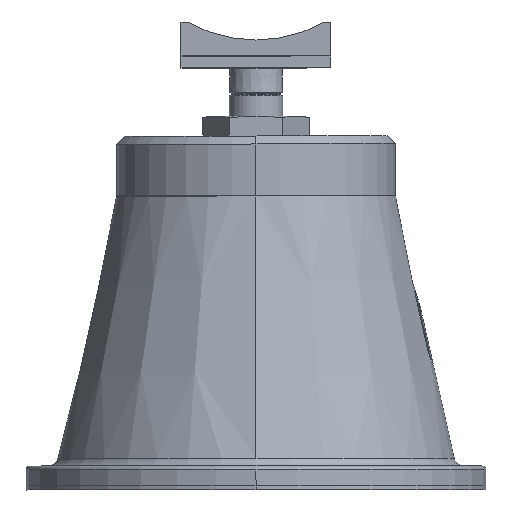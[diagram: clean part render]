
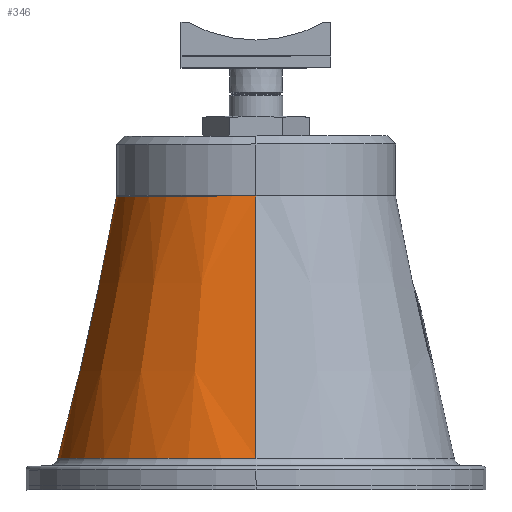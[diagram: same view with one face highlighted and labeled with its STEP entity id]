
A CAD part, left-side view. The second image highlights one B-rep face of the part: STEP entity #346.
In plain terms, the highlighted conical face has half-angle 12.633 degrees and reference radius 84.432 mm.
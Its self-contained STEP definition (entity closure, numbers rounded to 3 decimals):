
#346=ADVANCED_FACE('',(#701),#702,.T.);
#701=FACE_OUTER_BOUND('',#1097,.T.);
#702=CONICAL_SURFACE('',#1098,84.432,0.22);
#1097=EDGE_LOOP('',(#1887,#1888,#1889,#1890,#1891));
#1098=AXIS2_PLACEMENT_3D('',#1892,#1893,#1894);
#1887=ORIENTED_EDGE('',*,*,#2547,.T.);
#1888=ORIENTED_EDGE('',*,*,#2572,.F.);
#1889=ORIENTED_EDGE('',*,*,#2549,.T.);
#1890=ORIENTED_EDGE('',*,*,#2573,.T.);
#1891=ORIENTED_EDGE('',*,*,#2473,.T.);
#1892=CARTESIAN_POINT('',(459.518,546.894,-65.968));
#1893=DIRECTION('',(0.,0.,-1.0));
#1894=DIRECTION('',(-1.0,0.,0.));
#2473=EDGE_CURVE('',#2955,#2963,#2965,.T.);
#2547=EDGE_CURVE('',#2963,#3096,#3097,.T.);
#2549=EDGE_CURVE('',#3100,#3098,#3101,.T.);
#2572=EDGE_CURVE('',#3100,#3096,#3139,.T.);
#2573=EDGE_CURVE('',#3098,#2955,#3140,.T.);
#2955=VERTEX_POINT('',#3714);
#2963=VERTEX_POINT('',#3722);
#2965=CIRCLE('',#3724,99.123);
#3096=VERTEX_POINT('',#4315);
#3097=LINE('',#4316,#4317);
#3098=VERTEX_POINT('',#4318);
#3100=VERTEX_POINT('',#4320);
#3101=LINE('',#4321,#4322);
#3139=CIRCLE('',#4369,69.742);
#3140=CIRCLE('',#4370,99.123);
#3714=CARTESIAN_POINT('',(459.518,646.017,-131.51));
#3722=CARTESIAN_POINT('',(360.396,546.894,-131.51));
#3724=AXIS2_PLACEMENT_3D('',#4805,#4806,#4807);
#4315=CARTESIAN_POINT('',(389.777,546.894,-0.425));
#4316=CARTESIAN_POINT('',(375.086,546.894,-65.968));
#4317=VECTOR('',#4876,1.0);
#4318=CARTESIAN_POINT('',(558.641,546.894,-131.51));
#4320=CARTESIAN_POINT('',(529.26,546.894,-0.425));
#4321=CARTESIAN_POINT('',(543.95,546.894,-65.968));
#4322=VECTOR('',#4880,1.0);
#4369=AXIS2_PLACEMENT_3D('',#4923,#4924,#4925);
#4370=AXIS2_PLACEMENT_3D('',#4926,#4927,#4928);
#4805=CARTESIAN_POINT('',(459.518,546.894,-131.51));
#4806=DIRECTION('',(0.,0.,1.0));
#4807=DIRECTION('',(-1.0,0.,0.));
#4876=DIRECTION('',(0.219,0.,0.976));
#4880=DIRECTION('',(0.219,0.,-0.976));
#4923=CARTESIAN_POINT('',(459.518,546.894,-0.425));
#4924=DIRECTION('',(0.,0.,1.0));
#4925=DIRECTION('',(-1.0,0.,0.));
#4926=CARTESIAN_POINT('',(459.518,546.894,-131.51));
#4927=DIRECTION('',(0.,0.,1.0));
#4928=DIRECTION('',(-1.0,0.,0.));
